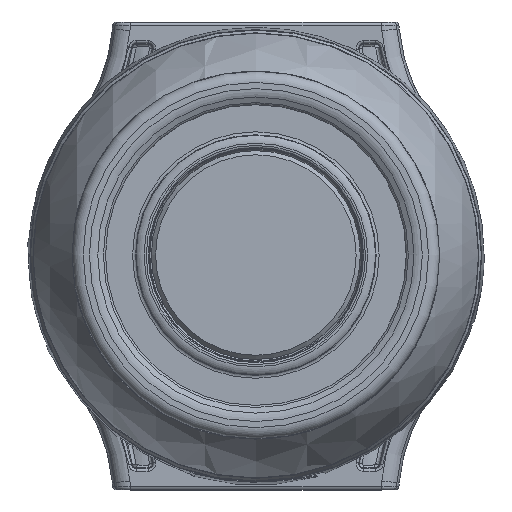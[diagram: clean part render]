
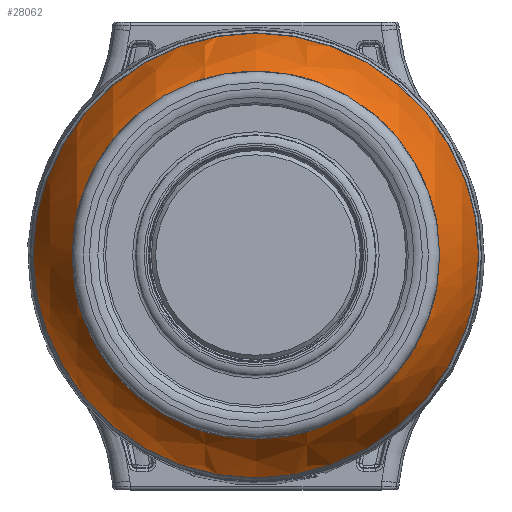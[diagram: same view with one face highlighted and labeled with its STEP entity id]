
A CAD part, top view. The second image highlights one B-rep face of the part: STEP entity #28062.
In plain terms, the highlighted spherical face has radius 40.831 mm.
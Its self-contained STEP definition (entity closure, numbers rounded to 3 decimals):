
#1329 = DIRECTION ( 'NONE',  ( -1., 0., 0. ) ) ;
#6447 = AXIS2_PLACEMENT_3D ( 'NONE', #101944, #1329, #110711 ) ;
#8041 = DIRECTION ( 'NONE',  ( 1., 0., 0. ) ) ;
#14178 = VERTEX_POINT ( 'NONE', #84131 ) ;
#19301 = ORIENTED_EDGE ( 'NONE', *, *, #94322, .F. ) ;
#25383 = AXIS2_PLACEMENT_3D ( 'NONE', #117388, #62663, #8041 ) ;
#28062 = ADVANCED_FACE ( 'NONE', ( #73039, #97396 ), #113095, .T. ) ;
#30691 = CARTESIAN_POINT ( 'NONE',  ( 0., 0., 30.343 ) ) ;
#31311 = VERTEX_POINT ( 'NONE', #64947 ) ;
#39841 = DIRECTION ( 'NONE',  ( 1., 0., 0. ) ) ;
#43463 = EDGE_LOOP ( 'NONE', ( #19301 ) ) ;
#57745 = EDGE_LOOP ( 'NONE', ( #62481 ) ) ;
#60387 = AXIS2_PLACEMENT_3D ( 'NONE', #30691, #94626, #39841 ) ;
#62481 = ORIENTED_EDGE ( 'NONE', *, *, #79887, .T. ) ;
#62663 = DIRECTION ( 'NONE',  ( 0., 0., 1. ) ) ;
#64947 = CARTESIAN_POINT ( 'NONE',  ( 39.938, 0., 8.489 ) ) ;
#73039 = FACE_OUTER_BOUND ( 'NONE', #57745, .T. ) ;
#79887 = EDGE_CURVE ( 'NONE', #31311, #31311, #108037, .T. ) ;
#84131 = CARTESIAN_POINT ( 'NONE',  ( 27.321, 0., 30.343 ) ) ;
#94322 = EDGE_CURVE ( 'NONE', #14178, #14178, #97111, .T. ) ;
#94626 = DIRECTION ( 'NONE',  ( 0., 0., 1. ) ) ;
#97111 = CIRCLE ( 'NONE', #60387, 27.321 ) ;
#97396 = FACE_OUTER_BOUND ( 'NONE', #43463, .T. ) ;
#101944 = CARTESIAN_POINT ( 'NONE',  ( 0., 0., 0. ) ) ;
#108037 = CIRCLE ( 'NONE', #25383, 39.938 ) ;
#110711 = DIRECTION ( 'NONE',  ( 0., 1., 0. ) ) ;
#113095 = SPHERICAL_SURFACE ( 'NONE', #6447, 40.83 ) ;
#117388 = CARTESIAN_POINT ( 'NONE',  ( 0., 0., 8.489 ) ) ;
